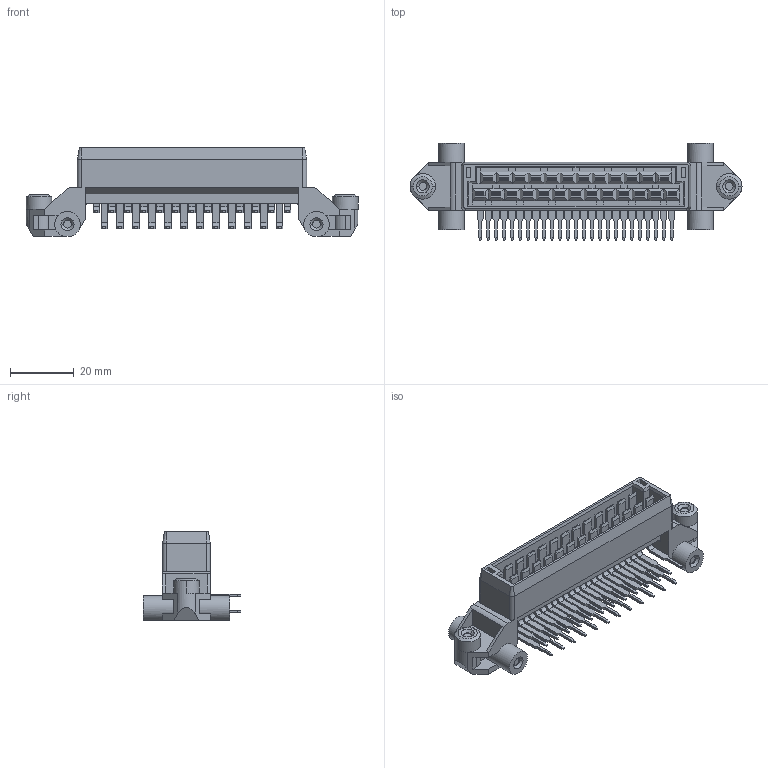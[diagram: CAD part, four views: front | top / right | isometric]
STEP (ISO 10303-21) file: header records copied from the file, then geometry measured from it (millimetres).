
FILE_DESCRIPTION((''),'2;1');
FILE_NAME('C-827019-1','2008-12-29T',('workeradm'),('Tyco Electronics Corporation'),'PRO/ENGINEER BY PARAMETRIC TECHNOLOGY CORPORATION, 2005450','PRO/ENGINEER BY PARAMETRIC TECHNOLOGY CORPORATION, 2005450','');
FILE_SCHEMA(('CONFIG_CONTROL_DESIGN', 'GEOMETRIC_VALIDATION_PROPERTIES_MIM'));
Length unit declared in the file: millimetre
Products named in the file (1): C-827019-1
Bounding box: 104 x 30.5 x 27.8 mm (x, y, z)
Volume: 16753.9 mm3; surface area: 14124.7 mm2
Topology: 1 solids, 1 shells, 1004 faces, 2512 edges, 1544 vertices
Faces by surface type: plane 904, cylinder 80, cone 20
Entity records: 29128 total; most frequent: CARTESIAN_POINT 5102, ORIENTED_EDGE 5024, DIRECTION 4704, EDGE_CURVE 2512, VECTOR 2316, LINE 2316, VERTEX_POINT 1544, AXIS2_PLACEMENT_3D 1194
